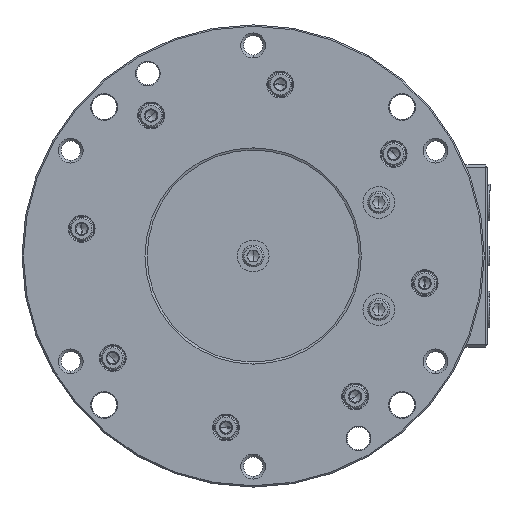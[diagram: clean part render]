
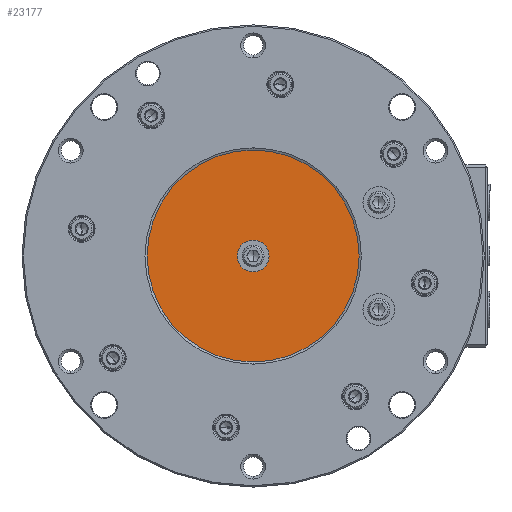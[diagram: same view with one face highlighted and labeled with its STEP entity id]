
A CAD part, left-side view. The second image highlights one B-rep face of the part: STEP entity #23177.
In plain terms, the highlighted planar face has unit normal (-1, 0, 0).
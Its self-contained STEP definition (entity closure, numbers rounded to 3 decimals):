
#79 = DIRECTION ( 'NONE',  ( -1., 0., 0. ) ) ;
#1549 = CIRCLE ( 'NONE', #49110, 46.54 ) ;
#1839 = CIRCLE ( 'NONE', #46166, 46.54 ) ;
#1983 = DIRECTION ( 'NONE',  ( 0., 0., 1. ) ) ;
#2010 = DIRECTION ( 'NONE',  ( 0., 0., 1. ) ) ;
#3724 = EDGE_CURVE ( 'NONE', #66395, #20698, #19744, .T. ) ;
#5633 = EDGE_CURVE ( 'NONE', #7247, #63259, #1839, .T. ) ;
#7247 = VERTEX_POINT ( 'NONE', #40792 ) ;
#8275 = DIRECTION ( 'NONE',  ( 1., 0., 0. ) ) ;
#14798 = EDGE_LOOP ( 'NONE', ( #43131, #43421 ) ) ;
#18453 = EDGE_CURVE ( 'NONE', #20698, #66395, #29583, .T. ) ;
#19744 = CIRCLE ( 'NONE', #54186, 7. ) ;
#20698 = VERTEX_POINT ( 'NONE', #48733 ) ;
#22700 = CARTESIAN_POINT ( 'NONE',  ( -117.5, 0., -7. ) ) ;
#22772 = DIRECTION ( 'NONE',  ( 0., 0., 1. ) ) ;
#23177 = ADVANCED_FACE ( 'NONE', ( #67420, #24956 ), #61776, .F. ) ;
#24956 = FACE_OUTER_BOUND ( 'NONE', #14798, .T. ) ;
#29583 = CIRCLE ( 'NONE', #60519, 7. ) ;
#32266 = DIRECTION ( 'NONE',  ( -1., 0., 0. ) ) ;
#32336 = CARTESIAN_POINT ( 'NONE',  ( -117.5, 0., 0. ) ) ;
#34166 = DIRECTION ( 'NONE',  ( -1., 0., 0. ) ) ;
#34209 = DIRECTION ( 'NONE',  ( -1., 0., 0. ) ) ;
#37701 = DIRECTION ( 'NONE',  ( 0., 0., 1. ) ) ;
#40792 = CARTESIAN_POINT ( 'NONE',  ( -117.5, 0., 46.54 ) ) ;
#43131 = ORIENTED_EDGE ( 'NONE', *, *, #5633, .T. ) ;
#43421 = ORIENTED_EDGE ( 'NONE', *, *, #50390, .T. ) ;
#46166 = AXIS2_PLACEMENT_3D ( 'NONE', #64099, #32266, #22772 ) ;
#47539 = EDGE_LOOP ( 'NONE', ( #49747, #48016 ) ) ;
#48016 = ORIENTED_EDGE ( 'NONE', *, *, #3724, .F. ) ;
#48733 = CARTESIAN_POINT ( 'NONE',  ( -117.5, 0., 7. ) ) ;
#49110 = AXIS2_PLACEMENT_3D ( 'NONE', #66014, #34166, #1983 ) ;
#49747 = ORIENTED_EDGE ( 'NONE', *, *, #18453, .F. ) ;
#50390 = EDGE_CURVE ( 'NONE', #63259, #7247, #1549, .T. ) ;
#53044 = CARTESIAN_POINT ( 'NONE',  ( -117.5, 0., -46.54 ) ) ;
#54186 = AXIS2_PLACEMENT_3D ( 'NONE', #66055, #34209, #2010 ) ;
#56500 = CARTESIAN_POINT ( 'NONE',  ( -117.5, 46.54, 0. ) ) ;
#60519 = AXIS2_PLACEMENT_3D ( 'NONE', #32336, #79, #37701 ) ;
#61776 = PLANE ( 'NONE',  #65578 ) ;
#63259 = VERTEX_POINT ( 'NONE', #53044 ) ;
#64099 = CARTESIAN_POINT ( 'NONE',  ( -117.5, 0., 0. ) ) ;
#65578 = AXIS2_PLACEMENT_3D ( 'NONE', #56500, #8275, #67099 ) ;
#66014 = CARTESIAN_POINT ( 'NONE',  ( -117.5, 0., 0. ) ) ;
#66055 = CARTESIAN_POINT ( 'NONE',  ( -117.5, 0., 0. ) ) ;
#66395 = VERTEX_POINT ( 'NONE', #22700 ) ;
#67099 = DIRECTION ( 'NONE',  ( 0., 0., -1. ) ) ;
#67420 = FACE_BOUND ( 'NONE', #47539, .T. ) ;
